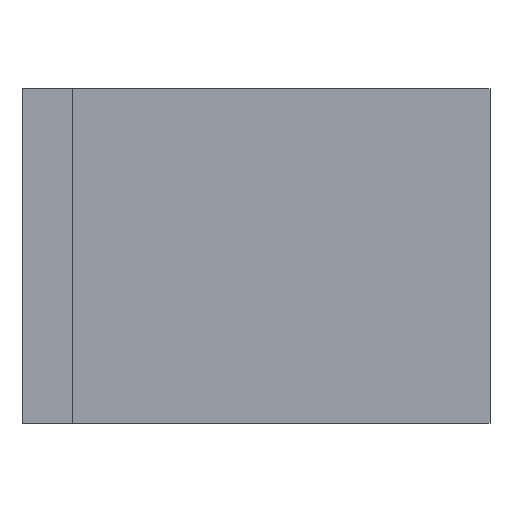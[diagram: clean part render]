
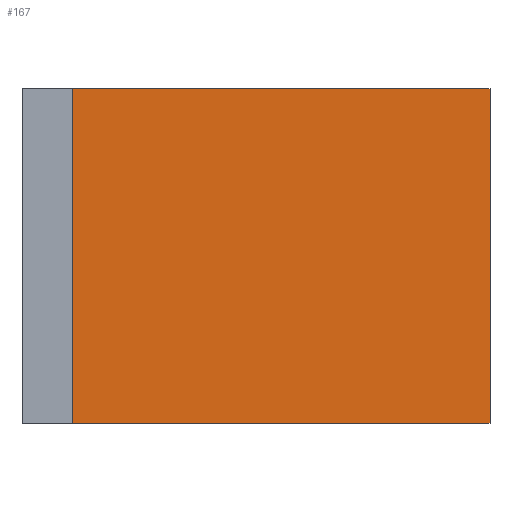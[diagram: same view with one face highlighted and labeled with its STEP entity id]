
A CAD part, left-side view. The second image highlights one B-rep face of the part: STEP entity #167.
In plain terms, the highlighted planar face has unit normal (-1, 0, 0).
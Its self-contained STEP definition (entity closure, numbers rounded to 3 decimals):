
#1=DIRECTION('',(0.,-1.,0.));
#2=VECTOR('',#1,50.);
#3=CARTESIAN_POINT('',(0.,-6.,0.));
#4=LINE('',#3,#2);
#25=DIRECTION('',(0.,0.,1.));
#26=VECTOR('',#25,40.);
#27=CARTESIAN_POINT('',(0.,-6.,0.));
#28=LINE('',#27,#26);
#65=DIRECTION('',(0.,0.,1.));
#66=VECTOR('',#65,40.);
#67=CARTESIAN_POINT('',(0.,-56.,0.));
#68=LINE('',#67,#66);
#69=DIRECTION('',(0.,-1.,0.));
#70=VECTOR('',#69,50.);
#71=CARTESIAN_POINT('',(0.,-6.,40.));
#72=LINE('',#71,#70);
#101=CARTESIAN_POINT('',(0.,-6.,0.));
#102=CARTESIAN_POINT('',(0.,-56.,0.));
#103=VERTEX_POINT('',#101);
#104=VERTEX_POINT('',#102);
#113=CARTESIAN_POINT('',(0.,-6.,40.));
#114=CARTESIAN_POINT('',(0.,-56.,40.));
#115=VERTEX_POINT('',#113);
#116=VERTEX_POINT('',#114);
#153=CARTESIAN_POINT('',(0.,-6.,0.));
#154=DIRECTION('',(-1.,0.,0.));
#155=DIRECTION('',(0.,-1.,0.));
#156=AXIS2_PLACEMENT_3D('',#153,#154,#155);
#157=PLANE('',#156);
#158=ORIENTED_EDGE('',*,*,#138,.F.);
#160=ORIENTED_EDGE('',*,*,#159,.T.);
#162=ORIENTED_EDGE('',*,*,#161,.T.);
#164=ORIENTED_EDGE('',*,*,#163,.F.);
#165=EDGE_LOOP('',(#158,#160,#162,#164));
#166=FACE_OUTER_BOUND('',#165,.F.);
#167=ADVANCED_FACE('',(#166),#157,.T.);
#138=EDGE_CURVE('',#103,#104,#4,.T.);
#159=EDGE_CURVE('',#103,#115,#28,.T.);
#161=EDGE_CURVE('',#115,#116,#72,.T.);
#163=EDGE_CURVE('',#104,#116,#68,.T.);
